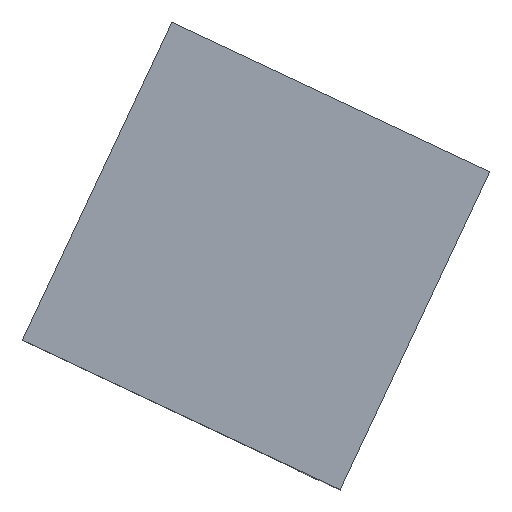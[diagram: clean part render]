
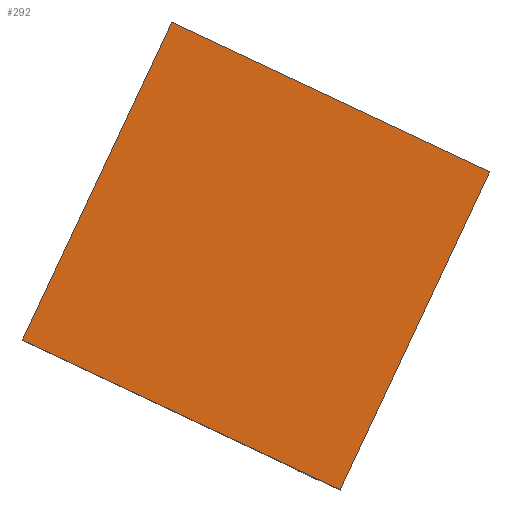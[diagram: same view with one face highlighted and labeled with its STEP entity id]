
A CAD part, top view. The second image highlights one B-rep face of the part: STEP entity #292.
In plain terms, the highlighted planar face has unit normal (0, 0, 1).
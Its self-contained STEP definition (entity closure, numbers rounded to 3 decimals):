
#218 = VERTEX_POINT('',#219);
#219 = CARTESIAN_POINT('',(-9.011,9.269,5.1));
#227 = VERTEX_POINT('',#228);
#228 = CARTESIAN_POINT('',(-9.778,7.64,5.1));
#234 = EDGE_CURVE('',#218,#227,#235,.T.);
#235 = LINE('',#236,#237);
#236 = CARTESIAN_POINT('',(-9.011,9.269,5.1));
#237 = VECTOR('',#238,1.);
#238 = DIRECTION('',(-0.426,-0.905,0.));
#250 = VERTEX_POINT('',#251);
#251 = CARTESIAN_POINT('',(-7.382,8.502,5.1));
#257 = EDGE_CURVE('',#250,#218,#258,.T.);
#258 = LINE('',#259,#260);
#259 = CARTESIAN_POINT('',(-7.382,8.502,5.1));
#260 = VECTOR('',#261,1.);
#261 = DIRECTION('',(-0.905,0.426,0.));
#275 = VERTEX_POINT('',#276);
#276 = CARTESIAN_POINT('',(-8.149,6.874,5.1));
#282 = EDGE_CURVE('',#250,#275,#283,.T.);
#283 = LINE('',#284,#285);
#284 = CARTESIAN_POINT('',(-7.382,8.502,5.1));
#285 = VECTOR('',#286,1.);
#286 = DIRECTION('',(-0.426,-0.905,0.));
#292 = ADVANCED_FACE('',(#293),#304,.T.);
#293 = FACE_BOUND('',#294,.T.);
#294 = EDGE_LOOP('',(#295,#296,#297,#298));
#295 = ORIENTED_EDGE('',*,*,#282,.F.);
#296 = ORIENTED_EDGE('',*,*,#257,.T.);
#297 = ORIENTED_EDGE('',*,*,#234,.T.);
#298 = ORIENTED_EDGE('',*,*,#299,.F.);
#299 = EDGE_CURVE('',#275,#227,#300,.T.);
#300 = LINE('',#301,#302);
#301 = CARTESIAN_POINT('',(-8.149,6.874,5.1));
#302 = VECTOR('',#303,1.);
#303 = DIRECTION('',(-0.905,0.426,0.));
#304 = PLANE('',#305);
#305 = AXIS2_PLACEMENT_3D('',#306,#307,#308);
#306 = CARTESIAN_POINT('',(-7.382,8.502,5.1));
#307 = DIRECTION('',(0.,0.,1.));
#308 = DIRECTION('',(-0.905,0.426,0.));
